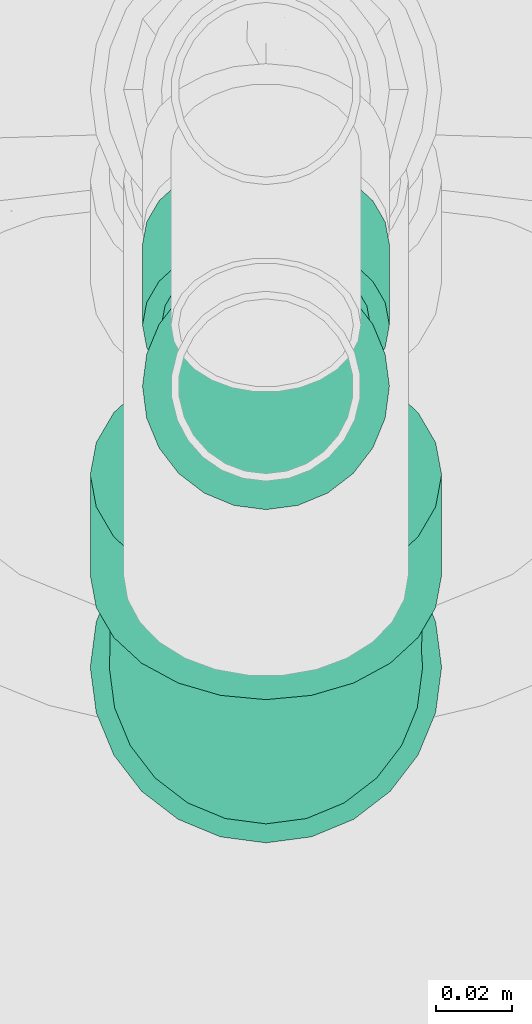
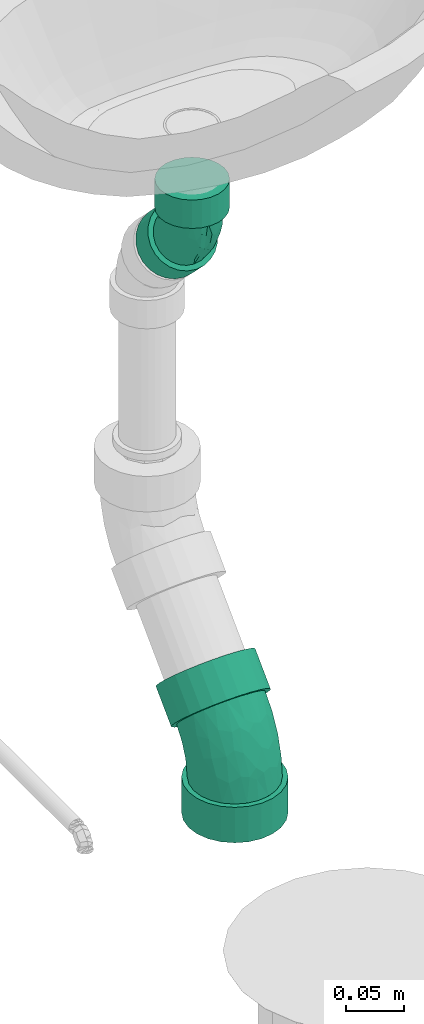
# One storey, part 53 of 108: 2 flow fittings.
"""IFC2X3 building model written with IfcOpenShell, lengths in millimetres."""

from ifc_helpers import new_model, entity, si_unit, converted_unit, derived_unit, direction, frame, origin_with_axes, place, context, subcontext, project, spatial, open_shell, surface_model, source, transform, mapped, type_object, element, save


model = new_model("IFC2X3")

# Units and contexts
model_context = context("Model", 3, precision=0.01, world=frame((0.0, 4.29681676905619e-09, 0.0)), true_north=direction((4.01073788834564e-13, 1.0)))
plan_context = context("Plan", 3, precision=0.01, world=frame((0.0, 4.29681676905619e-09, 0.0)), true_north=direction((4.01073788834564e-13, 1.0)))
body_context = subcontext(model_context, "Body", "Model", "MODEL_VIEW")
ifc_project = project(units=[converted_unit("PLANEANGLEUNIT", "DEGREE", entity("IfcPositiveLengthMeasure", 0.0174532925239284), si_unit("PLANEANGLEUNIT", "RADIAN"), dimensions=[0, 0, 0, 0, 0, 0, 0]), si_unit("AREAUNIT", "SQUARE_METRE"), si_unit("LENGTHUNIT", "METRE", prefix="MILLI"), si_unit("MASSUNIT", "GRAM", prefix="KILO"), si_unit("POWERUNIT", "WATT"), si_unit("PRESSUREUNIT", "PASCAL", prefix="KILO"), si_unit("FORCEUNIT", "NEWTON", prefix="KILO"), si_unit("ELECTRICVOLTAGEUNIT", "VOLT"), si_unit("ELECTRICCURRENTUNIT", "AMPERE"), si_unit("THERMODYNAMICTEMPERATUREUNIT", "DEGREE_CELSIUS"), si_unit("TIMEUNIT", "SECOND"), si_unit("VOLUMEUNIT", "CUBIC_METRE"), derived_unit("LINEARVELOCITYUNIT", [(si_unit("LENGTHUNIT", "METRE"), 1), (si_unit("TIMEUNIT", "SECOND"), -1)]), derived_unit("VOLUMETRICFLOWRATEUNIT", [(si_unit("VOLUMEUNIT", "CUBIC_METRE"), 1), (si_unit("TIMEUNIT", "SECOND"), -1)]), derived_unit("THERMALTRANSMITTANCEUNIT", [(si_unit("POWERUNIT", "WATT"), 1), (si_unit("THERMODYNAMICTEMPERATUREUNIT", "KELVIN"), -1), (si_unit("AREAUNIT", "SQUARE_METRE"), -1)]), derived_unit("SOUNDPRESSUREUNIT", [(si_unit("PRESSUREUNIT", "PASCAL"), 1)])], contexts=[model_context, plan_context])

# Site, building, storey
site_placement = place(None, frame((0.0, -4.29681676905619e-09, 0.0), z_axis=(0.0, 0.0, 1.0), x_axis=(1.0, 0.0, 0.0)))
site = spatial("IfcSite", under=ifc_project, at=site_placement, CompositionType="ELEMENT")
building_placement = place(site_placement, frame((0.0, 4.29681676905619e-09, 0.0), z_axis=(0.0, 0.0, 1.0), x_axis=(1.0, 0.0, 0.0)))
building = spatial("IfcBuilding", under=site, at=building_placement, Name="mc-building", CompositionType="ELEMENT")
storey_placement = place(building_placement, frame((0.0, 0.0, 210200.0), z_axis=(0.0, 0.0, 1.0), x_axis=(1.0, 0.0, 0.0)))
storey = spatial("IfcBuildingStorey", under=building, at=storey_placement, Name="Nivå F - 0,7 m", CompositionType="ELEMENT", Elevation=210200.0)

# Flow fittings
pipe_fitting_type = type_object("IfcPipeFittingType", Name="magi_sewer_bend_001", PredefinedType="BEND")
shared_shape_1 = source(origin_with_axes(), body_context, "Body", "SurfaceModel", [
    surface_model("IfcShellBasedSurfaceModel", [(-71.67262, -44.67407, -11.97038), (-71.67262, -11.97038, -44.67407), (-71.67262, -23.125, -40.05367), (-71.67262, -32.70369, -32.70369), (-71.67262, 0.0, -46.25), (-71.67262, -40.05367, -23.125), (-71.67262, -46.25, 0.0), (-71.67262, 11.97038, -44.67407), (-71.67262, 32.70369, -32.70369), (-71.67262, 23.125, -40.05367), (-71.67262, 44.67407, -11.97038), (-71.67262, 40.05367, -23.125), (-71.67262, -32.70369, 32.70369), (-71.67262, -44.67407, 11.97038), (-71.67262, -40.05367, 23.125), (-71.67262, 40.05367, 23.125), (-71.67262, -23.125, 40.05367), (-71.67262, -11.97038, 44.67407), (-71.67262, 0.0, 46.25), (-71.67262, 11.97038, 44.67407), (-71.67262, 44.67407, 11.97038), (-71.67262, 46.25, 0.0), (-71.67262, 23.125, 40.05367), (-71.67262, 32.70369, 32.70369), (-34.17262, 0.0, 46.25), (-34.17262, -11.97038, 44.67407), (-34.17262, -23.125, 40.05367), (-34.17262, -32.70369, 32.70369), (-34.17262, -40.05367, 23.125), (-34.17262, -44.67407, 11.97038), (-34.17262, 40.05367, 23.125), (-34.17262, -44.67407, -11.97038), (-34.17262, 23.125, 40.05367), (-34.17262, 32.70369, 32.70369), (-34.17262, 11.97038, 44.67407), (-34.17262, 44.67407, 11.97038), (-34.17262, 44.67407, -11.97038), (-34.17262, 46.25, 0.0), (-34.17262, -32.70369, -32.70369), (-34.17262, -40.05367, -23.125), (-34.17262, -23.125, -40.05367), (-34.17262, -11.97038, -44.67407), (-34.17262, 11.97038, -44.67407), (-34.17262, 32.70369, -32.70369), (-34.17262, 40.05367, -23.125), (-34.17262, 23.125, -40.05367), (-34.17262, 0.0, -46.25), (-34.17262, -46.25, 0.0), (22.35797, 79.00242, 23.125), (17.97651, 83.38388, 0.0), (19.09086, 82.26953, 11.97038), (34.32835, 67.03204, 40.05367), (27.55519, 73.8052, 32.70369), (42.21586, 59.14453, 44.67407), (27.55519, 73.8052, -32.70369), (73.8052, 27.55519, 32.70369), (42.21586, 59.14453, -44.67407), (19.09086, 82.26953, -11.97038), (22.35797, 79.00242, -23.125), (34.32835, 67.03204, -40.05367), (50.6802, 50.6802, 46.25), (59.14453, 42.21586, 44.67407), (67.03204, 34.32835, 40.05367), (67.03204, 34.32835, -40.05367), (79.00242, 22.35797, 23.125), (82.26953, 19.09086, 11.97038), (83.38388, 17.97651, 0.0), (82.26953, 19.09086, -11.97038), (59.14453, 42.21586, -44.67407), (50.6802, 50.6802, -46.25), (73.8052, 27.55519, -32.70369), (79.00242, 22.35797, -23.125), (56.86738, -8.54, 0.0), (55.75303, -7.42565, 11.97038), (52.48592, -4.15853, 23.125), (47.28869, 1.03869, 32.70369), (40.51554, 7.81185, 40.05367), (32.62803, 15.69935, 44.67407), (40.51554, 7.81185, -40.05367), (15.69935, 32.62803, 44.67407), (55.75303, -7.42565, -11.97038), (47.28869, 1.03869, -32.70369), (52.48592, -4.15853, -23.125), (32.62803, 15.69935, -44.67407), (15.69935, 32.62803, -44.67407), (24.16369, 24.16369, -46.25), (-4.15853, 52.48592, 23.125), (7.81185, 40.51554, 40.05367), (1.03869, 47.28869, 32.70369), (-4.15853, 52.48592, -23.125), (-7.42565, 55.75303, 11.97038), (1.03869, 47.28869, -32.70369), (7.81185, 40.51554, -40.05367), (-7.42565, 55.75303, -11.97038), (-8.54, 56.86738, 0.0), (24.16369, 24.16369, 46.25), (-34.17262, 10.67629, -39.84444), (-34.17262, 0.0, -41.25), (-34.17262, 35.72355, -20.625), (-34.17262, 20.625, -35.72355), (-34.17262, -10.67629, -39.84444), (-34.17262, 29.16816, -29.16816), (-34.17262, 39.84444, -10.67629), (-34.17262, -29.16816, -29.16816), (-34.17262, -35.72355, -20.625), (-34.17262, -20.625, -35.72355), (-34.17262, -39.84444, -10.67629), (-34.17262, -41.25, 0.0), (-34.17262, -39.84444, 10.67629), (-34.17262, 41.25, 0.0), (-34.17262, 35.72355, 20.625), (-34.17262, 39.84444, 10.67629), (-34.17262, 10.67629, 39.84444), (-34.17262, 20.625, 35.72355), (-34.17262, 29.16816, 29.16816), (-34.17262, -35.72355, 20.625), (-34.17262, -29.16816, 29.16816), (-34.17262, -10.67629, 39.84444), (-34.17262, -20.625, 35.72355), (-34.17262, 0.0, 41.25), (16.61442, 31.71296, -39.84444), (38.74777, 9.57961, -35.72355), (24.16369, 24.16369, -41.25), (9.57961, 38.74777, -35.72355), (49.42405, -1.09667, 20.625), (52.33797, -4.01058, -10.67629), (-1.09667, 49.42405, -20.625), (3.53869, 44.78869, -29.16816), (44.78869, 3.53869, -29.16816), (31.71296, 16.61442, -39.84444), (49.42405, -1.09667, -20.625), (52.33797, -4.01058, 10.67629), (53.33185, -5.00446, 0.0), (-5.00446, 53.33185, 0.0), (-4.01058, 52.33797, -10.67629), (-4.01058, 52.33797, 10.67629), (-1.09667, 49.42405, 20.625), (3.53869, 44.78869, 29.16816), (9.57961, 38.74777, 35.72355), (16.61442, 31.71296, 39.84444), (24.16369, 24.16369, 41.25), (31.71296, 16.61442, 39.84444), (44.78869, 3.53869, 29.16816), (38.74777, 9.57961, 35.72355), (10.50612, -25.36402, 22.98738), (-9.12592, -23.31355, 31.83011), (-13.32012, -31.54844, 24.15346), (-13.78242, -38.56558, 0.0), (-2.14376, -37.03332, 0.0), (-8.80455, -38.00287, 7.04384), (31.72686, -12.88936, 24.15346), (-16.3448, -15.12603, 37.70038), (4.23545, -10.22528, 37.18064), (1.2244, 24.79863, 38.50101), (7.45704, 19.5259, 40.65003), (-12.31128, -3.97165, 40.70351), (-3.92344, 9.47201, 41.10505), (-20.66814, 5.71607, 40.99967), (-11.71714, 28.28769, 33.67672), (-18.19114, 34.59421, 26.03152), (22.25324, 0.8618, 37.70038), (-15.84955, 17.16525, 38.56294), (15.91914, -26.99759, 16.25694), (-7.39626, -35.6875, 14.32507), (12.80708, -30.91902, 8.96571), (-16.99315, 41.02508, 16.94728), (33.09785, -20.64633, 7.04384), (37.01562, -17.52434, 0.0), (-16.52245, 44.20054, 8.66711), (30.46482, -20.00493, 14.32507), (11.51377, 5.89701, 40.70351), (22.93817, -10.03217, 31.83011), (-18.38693, 44.38997, 0.0), (6.92373, -16.71536, 32.89459), (12.77931, -30.85198, 0.0), (27.70238, -24.67064, 0.0), (-12.31128, -3.97165, -40.70351), (-8.80455, -38.00287, -7.04384), (12.80708, -30.91902, -8.96571), (11.51377, 5.89701, -40.70351), (-18.40106, 16.66949, -38.50101), (-19.07982, 8.53397, -40.65003), (-11.59873, 37.32487, -26.03152), (22.93817, -10.03217, -31.83011), (-16.99315, 41.02508, -16.94728), (30.46482, -20.00492, -14.32507), (-19.57136, 42.93764, -8.66711), (-0.93034, 23.34499, -38.56294), (-7.39626, -35.6875, -14.32507), (-11.71715, 28.28769, -33.67672), (-13.32012, -31.54844, -24.15346), (-9.12592, -23.31355, -31.83011), (6.92373, -16.71536, -32.89459), (10.50612, -25.36402, -22.98737), (-16.3448, -15.12603, -37.70038), (22.25324, 0.8618, -37.70038), (4.23545, -10.22528, -37.18064), (33.09785, -20.64633, -7.04384), (10.57272, 18.65645, -40.99967), (7.83365, -30.34671, -16.25694), (31.72686, -12.88936, -24.15346), (-3.92344, 9.47201, -41.10505)], [open_shell([[[0, 1, 2]], [[0, 2, 3]], [[1, 0, 4]], [[0, 3, 5]], [[4, 0, 6]], [[7, 8, 9]], [[8, 7, 4]], [[8, 10, 11]], [[10, 8, 4]], [[4, 6, 10]], [[6, 12, 10]], [[13, 14, 12]], [[10, 12, 15]], [[16, 17, 18]], [[16, 18, 12]], [[19, 12, 18]], [[10, 20, 21]], [[15, 20, 10]], [[15, 22, 23]], [[22, 15, 19]], [[12, 19, 15]], [[6, 13, 12]], [[24, 25, 26]], [[24, 26, 27]], [[27, 28, 29]], [[24, 27, 30]], [[27, 31, 30]], [[32, 30, 33]], [[30, 32, 34]], [[35, 36, 37]], [[30, 34, 24]], [[35, 30, 36]], [[27, 29, 31]], [[36, 30, 31]], [[38, 31, 39]], [[40, 41, 31]], [[40, 31, 38]], [[42, 31, 41]], [[36, 43, 44]], [[36, 31, 43]], [[43, 42, 45]], [[31, 42, 43]], [[41, 46, 42]], [[31, 29, 47]], [[36, 10, 37]], [[44, 11, 36]], [[9, 43, 45]], [[44, 43, 8]], [[7, 45, 42]], [[36, 11, 10]], [[10, 21, 37]], [[7, 9, 45]], [[8, 43, 9]], [[8, 11, 44]], [[4, 7, 42]], [[42, 46, 4]], [[46, 41, 1]], [[5, 39, 31]], [[39, 3, 38]], [[0, 31, 47]], [[1, 40, 2]], [[40, 1, 41]], [[40, 38, 2]], [[38, 3, 2]], [[39, 5, 3]], [[0, 5, 31]], [[47, 6, 0]], [[46, 1, 4]], [[29, 13, 47]], [[28, 14, 29]], [[16, 27, 26]], [[28, 27, 12]], [[17, 26, 25]], [[29, 14, 13]], [[13, 6, 47]], [[17, 16, 26]], [[12, 27, 16]], [[12, 14, 28]], [[18, 17, 25]], [[25, 24, 18]], [[33, 22, 32]], [[35, 15, 30]], [[33, 30, 23]], [[20, 35, 37]], [[32, 19, 34]], [[32, 22, 19]], [[19, 18, 34]], [[33, 23, 22]], [[30, 15, 23]], [[20, 15, 35]], [[37, 21, 20]], [[34, 18, 24]], [[48, 49, 50]], [[51, 48, 52]], [[48, 53, 54]], [[53, 48, 51]], [[53, 55, 56]], [[57, 54, 58]], [[57, 49, 48]], [[54, 56, 59]], [[57, 48, 54]], [[53, 56, 54]], [[53, 60, 55]], [[61, 62, 55]], [[56, 55, 63]], [[64, 65, 66]], [[55, 64, 63]], [[66, 67, 64]], [[56, 68, 69]], [[63, 68, 56]], [[70, 67, 71]], [[67, 70, 63]], [[64, 67, 63]], [[60, 61, 55]], [[72, 73, 74]], [[72, 74, 75]], [[75, 76, 77]], [[72, 75, 78]], [[75, 79, 78]], [[80, 81, 82]], [[81, 80, 78]], [[83, 84, 85]], [[78, 80, 72]], [[83, 78, 84]], [[75, 77, 79]], [[84, 78, 79]], [[86, 79, 87]], [[84, 79, 86]], [[86, 87, 88]], [[89, 86, 90]], [[84, 91, 92]], [[91, 84, 89]], [[90, 93, 89]], [[89, 84, 86]], [[94, 93, 90]], [[79, 77, 95]], [[84, 56, 85]], [[92, 59, 84]], [[58, 91, 89]], [[92, 91, 54]], [[57, 89, 93]], [[84, 59, 56]], [[56, 69, 85]], [[57, 58, 89]], [[54, 91, 58]], [[54, 59, 92]], [[49, 57, 93]], [[93, 94, 49]], [[94, 90, 50]], [[51, 87, 79]], [[87, 52, 88]], [[53, 79, 95]], [[50, 86, 48]], [[86, 50, 90]], [[86, 88, 48]], [[88, 52, 48]], [[87, 51, 52]], [[53, 51, 79]], [[95, 60, 53]], [[94, 50, 49]], [[77, 61, 95]], [[76, 62, 77]], [[64, 75, 74]], [[76, 75, 55]], [[65, 74, 73]], [[77, 62, 61]], [[61, 60, 95]], [[65, 64, 74]], [[55, 75, 64]], [[55, 62, 76]], [[66, 65, 73]], [[73, 72, 66]], [[67, 72, 80]], [[71, 80, 82]], [[63, 78, 83]], [[68, 83, 85]], [[82, 70, 71]], [[71, 67, 80]], [[81, 63, 70]], [[81, 78, 63]], [[63, 83, 68]], [[85, 69, 68]], [[81, 70, 82]], [[72, 67, 66]], [[96, 97, 98]], [[99, 96, 98]], [[100, 98, 97]], [[101, 99, 98]], [[102, 98, 100]], [[103, 104, 105]], [[100, 105, 104]], [[104, 106, 100]], [[106, 102, 100]], [[107, 108, 106]], [[109, 102, 106]], [[110, 111, 109]], [[108, 110, 106]], [[112, 113, 114]], [[108, 114, 110]], [[114, 108, 112]], [[115, 116, 108]], [[117, 108, 116]], [[118, 117, 116]], [[117, 112, 108]], [[117, 119, 112]], [[109, 106, 110]], [[120, 121, 122]], [[123, 124, 120]], [[125, 120, 124]], [[126, 123, 127]], [[124, 123, 126]], [[121, 125, 128]], [[121, 129, 122]], [[128, 125, 130]], [[120, 125, 121]], [[125, 131, 132]], [[133, 126, 134]], [[133, 135, 136]], [[126, 136, 124]], [[137, 138, 139]], [[137, 139, 136]], [[140, 136, 139]], [[124, 141, 142]], [[131, 125, 124]], [[142, 141, 143]], [[141, 124, 140]], [[136, 140, 124]], [[126, 133, 136]], [[144, 145, 146]], [[147, 148, 149]], [[118, 116, 145]], [[124, 142, 150]], [[151, 145, 152]], [[146, 145, 116]], [[139, 153, 154]], [[117, 118, 151]], [[155, 156, 157]], [[119, 117, 155]], [[114, 158, 159]], [[143, 141, 160]], [[157, 112, 119]], [[113, 161, 158]], [[108, 147, 149]], [[138, 137, 158]], [[162, 163, 164]], [[158, 114, 113]], [[116, 115, 146]], [[110, 159, 165]], [[111, 110, 165]], [[131, 166, 167]], [[168, 109, 111]], [[169, 162, 164]], [[163, 149, 164]], [[113, 112, 161]], [[140, 154, 170]], [[142, 143, 171]], [[136, 135, 165]], [[170, 141, 140]], [[144, 146, 163]], [[142, 171, 150]], [[156, 154, 153]], [[171, 143, 160]], [[115, 163, 146]], [[166, 131, 169]], [[144, 150, 171]], [[157, 161, 112]], [[144, 162, 150]], [[111, 165, 168]], [[115, 108, 163]], [[172, 168, 133]], [[145, 173, 152]], [[135, 168, 165]], [[152, 170, 155]], [[136, 165, 159]], [[152, 160, 170]], [[136, 159, 137]], [[156, 155, 170]], [[139, 138, 153]], [[153, 158, 161]], [[151, 155, 117]], [[110, 114, 159]], [[169, 131, 124]], [[169, 124, 150]], [[173, 144, 171]], [[137, 159, 158]], [[158, 153, 138]], [[156, 153, 161]], [[145, 151, 118]], [[155, 151, 152]], [[170, 160, 141]], [[171, 160, 152]], [[108, 107, 147]], [[164, 148, 174]], [[108, 149, 163]], [[148, 164, 149]], [[166, 164, 175]], [[167, 166, 175]], [[167, 132, 131]], [[164, 166, 169]], [[170, 154, 156]], [[140, 139, 154]], [[155, 157, 119]], [[161, 157, 156]], [[144, 173, 145]], [[171, 152, 173]], [[133, 168, 135]], [[168, 172, 109]], [[150, 162, 169]], [[163, 162, 144]], [[175, 164, 174]], [[100, 97, 176]], [[148, 177, 178]], [[122, 129, 179]], [[180, 181, 96]], [[98, 182, 101]], [[121, 128, 183]], [[184, 182, 98]], [[130, 125, 185]], [[102, 186, 184]], [[123, 120, 187]], [[106, 177, 147]], [[99, 180, 96]], [[177, 106, 188]], [[127, 189, 182]], [[188, 104, 190]], [[190, 103, 191]], [[103, 105, 191]], [[192, 193, 191]], [[106, 104, 188]], [[103, 190, 104]], [[194, 105, 100]], [[195, 179, 129]], [[134, 126, 184]], [[196, 194, 176]], [[109, 172, 186]], [[193, 190, 191]], [[133, 134, 186]], [[196, 176, 179]], [[127, 123, 189]], [[184, 98, 102]], [[126, 182, 184]], [[194, 191, 105]], [[187, 189, 123]], [[181, 176, 97]], [[189, 187, 180]], [[101, 189, 99]], [[125, 167, 197]], [[198, 120, 122]], [[195, 129, 121]], [[199, 185, 178]], [[128, 200, 183]], [[196, 195, 183]], [[128, 130, 200]], [[201, 198, 179]], [[200, 193, 183]], [[201, 179, 176]], [[197, 167, 175]], [[198, 187, 120]], [[201, 181, 180]], [[177, 188, 178]], [[193, 199, 190]], [[183, 192, 196]], [[130, 185, 200]], [[134, 184, 186]], [[193, 200, 185]], [[126, 127, 182]], [[101, 182, 189]], [[189, 180, 99]], [[201, 180, 187]], [[176, 194, 100]], [[191, 194, 196]], [[183, 195, 121]], [[179, 195, 196]], [[147, 177, 148]], [[147, 107, 106]], [[199, 178, 188]], [[197, 178, 185]], [[178, 175, 174]], [[125, 132, 167]], [[178, 197, 175]], [[125, 197, 185]], [[176, 181, 201]], [[97, 96, 181]], [[179, 198, 122]], [[187, 198, 201]], [[193, 192, 183]], [[191, 196, 192]], [[109, 186, 102]], [[186, 172, 133]], [[190, 199, 188]], [[185, 199, 193]], [[148, 178, 174]]])]),
])
flow_fitting_1_placement = place(storey_placement, frame((339409.94567, 460552.16559, 88.7977499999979), z_axis=(1.0, 0.0, 0.0), x_axis=(0.0, -0.707106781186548, -0.707106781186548)))
element("IfcFlowFitting", 1, at=flow_fitting_1_placement, inside=storey, type_object=pipe_fitting_type, Name="magi_sewer_bend_001", context=body_context, shape_type="MappedRepresentation", body=[
    mapped(shared_shape_1, transform((0.0, 0.0, 0.0), scale=1.0)),
])
shared_shape_2 = source(origin_with_axes(), body_context, "Body", "SurfaceModel", [
    surface_model("IfcShellBasedSurfaceModel", [(-52.78174, -16.25, -28.14582), (-52.78174, 0.0, -32.5), (-52.78174, -8.41162, -31.39259), (-52.78174, -31.39259, -8.41162), (-52.78174, -22.98097, -22.98097), (-52.78174, -28.14582, -16.25), (-52.78174, 16.25, -28.14582), (-52.78174, 8.41162, -31.39259), (-52.78174, 22.98097, -22.98097), (-52.78174, 31.39259, -8.41162), (-52.78174, 28.14582, -16.25), (-52.78174, 31.39259, 8.41162), (-52.78174, -32.5, 0.0), (-52.78174, -31.39259, 8.41162), (-52.78174, -16.25, 28.14582), (-52.78174, -28.14582, 16.25), (-52.78174, -22.98097, 22.98097), (-52.78174, -8.41162, 31.39259), (-52.78174, 0.0, 32.5), (-52.78174, 22.98097, 22.98097), (-52.78174, 28.14582, 16.25), (-52.78174, 32.5, 0.0), (-22.78175, 0.0, 32.5), (-22.78175, -8.41162, 31.39259), (-22.78175, -16.25, 28.14582), (-22.78175, -28.14582, 16.25), (-22.78175, -31.39259, 8.41162), (-22.78175, -22.98097, 22.98097), (-22.78175, 31.39259, 8.41162), (-22.78175, 22.98097, 22.98097), (-22.78175, 16.25, 28.14582), (-22.78175, 8.41162, 31.39259), (-22.78175, 28.14582, 16.25), (-22.78175, 31.39259, -8.41162), (-22.78175, 32.5, 0.0), (-22.78175, -16.25, -28.14582), (-22.78175, -31.39259, -8.41162), (-22.78175, -22.98097, -22.98097), (-22.78175, -28.14582, -16.25), (-22.78175, -8.41162, -31.39259), (-22.78175, 0.0, -32.5), (-22.78175, 22.98097, -22.98097), (-22.78175, 28.14582, -16.25), (-22.78175, 16.25, -28.14582), (-22.78175, 8.41162, -31.39259), (-22.78175, -32.5, 0.0), (-52.78174, 16.25, 28.14582), (-52.78174, 8.41162, 31.39259), (31.37442, 43.27024, 31.39259), (21.07233, 53.57233, 22.98097), (25.83184, 48.81281, 28.14582), (14.34136, 60.3033, 0.0), (17.42023, 57.22443, -16.25), (15.12442, 59.52025, -8.41162), (21.07233, 53.57233, -22.98097), (31.37442, 43.27024, -31.39259), (25.83184, 48.81281, -28.14582), (57.22444, 17.42023, 16.25), (59.52025, 15.12442, 8.41162), (60.3033, 14.34136, 0.0), (43.27024, 31.37442, -31.39259), (53.57233, 21.07233, -22.98097), (48.81281, 25.83184, -28.14582), (59.52025, 15.12442, -8.41162), (57.22444, 17.42023, -16.25), (32.35913, -0.14087, -22.98097), (22.05704, 10.16121, -31.39259), (27.59961, 4.61864, -28.14582), (10.16121, 22.05704, -31.39259), (16.10913, 16.10913, -32.5), (-0.14087, 32.35913, 22.98097), (10.16121, 22.05704, 31.39259), (4.61864, 27.59961, 28.14582), (-3.79298, 36.01123, 16.25), (-0.14087, 32.35913, -22.98097), (4.61864, 27.59961, -28.14582), (-3.79298, 36.01123, -16.25), (-6.08879, 38.30704, -8.41162), (37.32233, 37.32233, -32.5), (-6.87184, 39.0901, 0.0), (15.12442, 59.52025, 8.41162), (-6.08879, 38.30704, 8.41162), (17.42023, 57.22443, 16.25), (16.10913, 16.10913, 32.5), (37.32233, 37.32233, 32.5), (22.05704, 10.16121, 31.39259), (43.27024, 31.37442, 31.39259), (27.59961, 4.61864, 28.14582), (48.81281, 25.83184, 28.14582), (32.35913, -0.14087, 22.98097), (36.01123, -3.79298, 16.25), (53.57233, 21.07233, 22.98097), (38.30704, -6.08879, 8.41162), (39.0901, -6.87184, 0.0), (36.01123, -3.79298, -16.25), (38.30704, -6.08879, -8.41162), (-22.78175, -7.11752, -26.56296), (-22.78175, -13.75, -23.8157), (-22.78175, 0.0, -27.5), (-22.78175, -19.44544, -19.44544), (-22.78175, 7.11752, 26.56296), (-22.78175, 13.75, 23.8157), (-22.78175, 0.0, 27.5), (-22.78175, -19.44544, 19.44544), (-22.78175, -13.75, 23.8157), (-22.78175, -23.8157, 13.75), (-22.78175, -27.5, 0.0), (-22.78175, -26.56296, 7.11752), (-22.78175, -7.11752, 26.56296), (16.10913, 16.10913, -27.5), (11.07628, 21.14198, -26.56296), (6.38641, 25.83184, -23.8157), (34.89198, -2.67372, 7.11752), (35.55456, -3.33631, 0.0), (32.94937, -0.73112, 13.75), (25.83184, 6.38641, 23.8157), (16.10913, 16.10913, 27.5), (21.14198, 11.07628, 26.56296), (-10.89653, -10.08402, 25.13359), (-6.08395, -15.54237, 21.22007), (2.82363, -6.81685, 24.78709), (-8.88008, -21.03229, 16.10231), (29.85913, 2.35913, 19.44544), (21.15124, -8.59291, 16.10231), (-8.20752, -2.64777, 27.13567), (-10.56637, 11.4435, 25.70862), (-2.61562, 6.31467, 27.40336), (-13.77876, 3.81071, 27.33312), (11.07628, 21.14198, 26.56296), (0.81627, 16.53242, 25.66734), (4.97136, 13.01727, 27.10002), (7.00408, -16.90935, 15.32492), (14.83549, 0.57453, 25.13359), (-11.32876, 27.35006, 11.29819), (-22.78175, 23.8157, 13.75), (-12.12742, 23.0628, 17.35435), (-7.81143, 18.85846, 22.45115), (-22.78175, 19.44544, 19.44544), (2.36739, -23.11848, 4.86135), (12.57175, -19.06151, 4.86135), (8.1319, -19.63215, 9.56958), (-6.99605, -24.36003, 0.0), (-7.7494, -25.65083, 5.00996), (26.50273, -10.51974, 5.28921), (20.30988, -13.33662, 9.55004), (-11.01497, 29.46703, 5.77808), (-22.78175, 26.56296, 7.11752), (-4.93084, -23.79167, 9.55004), (-22.78175, 27.5, 0.0), (6.38641, 25.83184, 23.8157), (2.35913, 29.85913, 19.44544), (7.67585, 3.93134, 27.13567), (15.29211, -6.68811, 21.22007), (-0.73111, 32.94937, 13.75), (-2.67372, 34.89198, 7.11752), (8.78964, -21.22006, 0.0), (22.1721, -12.27819, 0.0), (-12.25795, 29.59331, 0.0), (-3.33631, 35.55456, 0.0), (4.61582, -11.14357, 21.92972), (-8.20752, -2.64777, -27.13567), (14.67324, -18.02124, -4.86135), (4.58896, -22.36809, -4.86135), (8.1319, -19.63215, -9.56958), (21.14198, 11.07628, -26.56296), (7.67585, 3.93134, -27.13567), (-12.26737, 11.113, -25.66734), (-12.71988, 5.68931, -27.10002), (-22.78175, 7.11752, -26.56296), (-22.78175, 23.8157, -13.75), (-7.73248, 24.88325, -17.35435), (-22.78175, 19.44544, -19.44544), (25.83184, 6.38641, -23.8157), (29.85913, 2.35913, -19.44544), (15.29211, -6.68811, -21.22007), (-11.32876, 27.35006, -11.29819), (32.94937, -0.73112, -13.75), (34.89198, -2.67372, -7.11752), (20.30988, -13.33662, -9.55004), (-22.78175, 26.56296, -7.11752), (-13.04757, 28.62509, -5.77807), (-0.62023, 15.56333, -25.70862), (-11.30168, -26.17884, -5.28921), (-22.78175, -26.56296, -7.11752), (-4.93084, -23.79167, -9.55004), (-22.78175, 13.75, -23.8157), (7.00408, -16.90935, -15.32492), (21.15124, -8.59291, -16.10231), (-8.88008, -21.03229, -16.10231), (-6.08395, -15.54237, -21.22007), (4.61582, -11.14357, -21.92972), (-22.78175, -23.8157, -13.75), (-10.89653, -10.08402, -25.13359), (2.82363, -6.81685, -24.78709), (14.83549, 0.57453, -25.13359), (-2.67372, 34.89198, -7.11752), (-2.61562, 6.31467, -27.40336), (2.35913, 29.85913, -19.44544), (-7.81143, 18.85846, -22.45115), (-0.73111, 32.94937, -13.75), (23.61753, -12.65822, -5.00996), (7.04848, 12.43764, -27.33312)], [open_shell([[[0, 1, 2]], [[3, 0, 4]], [[3, 4, 5]], [[1, 6, 7]], [[8, 9, 10]], [[8, 11, 9]], [[3, 12, 13]], [[14, 15, 16]], [[14, 17, 18]], [[11, 19, 20]], [[21, 9, 11]], [[11, 3, 13]], [[22, 23, 24]], [[22, 24, 25]], [[25, 26, 22]], [[25, 24, 27]], [[22, 26, 28]], [[22, 29, 30]], [[30, 31, 22]], [[29, 28, 32]], [[28, 29, 22]], [[28, 33, 34]], [[28, 26, 35]], [[26, 36, 35]], [[37, 36, 38]], [[39, 28, 35]], [[35, 36, 37]], [[28, 39, 40]], [[33, 41, 42]], [[33, 28, 41]], [[43, 40, 44]], [[40, 43, 41]], [[40, 41, 28]], [[36, 26, 45]], [[33, 9, 34]], [[42, 10, 33]], [[6, 41, 43]], [[42, 41, 8]], [[7, 43, 44]], [[33, 10, 9]], [[9, 21, 34]], [[7, 6, 43]], [[8, 41, 6]], [[8, 10, 42]], [[1, 7, 44]], [[44, 40, 1]], [[2, 40, 39]], [[0, 39, 35]], [[5, 38, 36]], [[3, 36, 45]], [[39, 0, 2]], [[0, 35, 37]], [[0, 37, 4]], [[37, 38, 4]], [[4, 38, 5]], [[5, 36, 3]], [[45, 12, 3]], [[40, 2, 1]], [[26, 13, 45]], [[25, 15, 26]], [[14, 27, 24]], [[25, 27, 16]], [[17, 24, 23]], [[26, 15, 13]], [[13, 12, 45]], [[17, 14, 24]], [[16, 27, 14]], [[16, 15, 25]], [[18, 17, 23]], [[23, 22, 18]], [[46, 30, 29]], [[20, 32, 28]], [[29, 32, 19]], [[11, 28, 34]], [[31, 46, 47]], [[31, 30, 46]], [[47, 18, 31]], [[29, 19, 46]], [[32, 20, 19]], [[11, 20, 28]], [[34, 21, 11]], [[31, 18, 22]], [[48, 49, 50]], [[51, 52, 53]], [[54, 55, 56]], [[57, 58, 59]], [[60, 61, 62]], [[61, 63, 64]], [[63, 61, 60]], [[65, 66, 67]], [[66, 68, 69]], [[70, 71, 72]], [[73, 71, 70]], [[68, 74, 75]], [[68, 55, 69]], [[75, 56, 68]], [[52, 74, 76]], [[75, 74, 54]], [[53, 76, 77]], [[68, 56, 55]], [[55, 78, 69]], [[53, 52, 76]], [[54, 74, 52]], [[54, 56, 75]], [[51, 53, 77]], [[77, 79, 51]], [[80, 79, 81]], [[82, 81, 73]], [[50, 72, 71]], [[48, 71, 83]], [[81, 82, 80]], [[82, 73, 70]], [[82, 70, 49]], [[70, 72, 49]], [[49, 72, 50]], [[50, 71, 48]], [[83, 84, 48]], [[79, 80, 51]], [[85, 86, 83]], [[87, 88, 85]], [[57, 89, 90]], [[87, 89, 91]], [[58, 90, 92]], [[85, 88, 86]], [[86, 84, 83]], [[58, 57, 90]], [[91, 89, 57]], [[91, 88, 87]], [[59, 58, 92]], [[92, 93, 59]], [[64, 94, 65]], [[62, 67, 66]], [[65, 67, 61]], [[60, 66, 69]], [[95, 64, 63]], [[95, 94, 64]], [[63, 59, 95]], [[65, 61, 64]], [[67, 62, 61]], [[60, 62, 66]], [[69, 78, 60]], [[95, 59, 93]], [[96, 97, 98]], [[97, 99, 98]], [[100, 101, 102]], [[103, 104, 105]], [[105, 106, 107]], [[108, 102, 104]], [[109, 110, 111]], [[112, 113, 114]], [[115, 116, 117]], [[118, 119, 120]], [[103, 121, 119]], [[104, 103, 119]], [[114, 122, 123]], [[102, 108, 124]], [[108, 104, 118]], [[101, 100, 125]], [[126, 127, 124]], [[102, 127, 100]], [[128, 129, 130]], [[119, 121, 131]], [[115, 117, 132]], [[133, 134, 135]], [[136, 137, 101]], [[138, 139, 140]], [[141, 138, 142]], [[143, 112, 144]], [[133, 145, 146]], [[105, 107, 147]], [[148, 146, 145]], [[146, 134, 133]], [[103, 105, 121]], [[125, 136, 101]], [[147, 140, 131]], [[106, 141, 142]], [[149, 150, 136]], [[116, 130, 151]], [[122, 115, 152]], [[153, 154, 133]], [[151, 117, 116]], [[138, 141, 155]], [[122, 152, 123]], [[126, 130, 129]], [[152, 115, 132]], [[105, 147, 121]], [[156, 143, 139]], [[112, 143, 113]], [[127, 125, 100]], [[145, 133, 154]], [[157, 145, 158]], [[123, 131, 144]], [[119, 159, 120]], [[120, 151, 124]], [[128, 149, 129]], [[120, 132, 151]], [[133, 135, 153]], [[126, 124, 151]], [[150, 153, 135]], [[136, 125, 129]], [[118, 124, 108]], [[134, 137, 135]], [[112, 114, 144]], [[131, 121, 147]], [[159, 131, 152]], [[131, 123, 152]], [[144, 114, 123]], [[137, 136, 135]], [[150, 135, 136]], [[136, 129, 149]], [[126, 129, 125]], [[119, 118, 104]], [[124, 118, 120]], [[151, 132, 117]], [[152, 132, 120]], [[151, 130, 126]], [[116, 128, 130]], [[124, 127, 102]], [[125, 127, 126]], [[138, 140, 147]], [[144, 131, 140]], [[138, 147, 142]], [[139, 138, 155]], [[156, 139, 155]], [[144, 140, 139]], [[147, 107, 142]], [[106, 142, 107]], [[131, 159, 119]], [[152, 120, 159]], [[158, 145, 154]], [[145, 157, 148]], [[139, 143, 144]], [[113, 143, 156]], [[96, 98, 160]], [[161, 162, 163]], [[109, 164, 165]], [[166, 167, 168]], [[169, 170, 171]], [[172, 173, 174]], [[175, 170, 169]], [[176, 177, 178]], [[179, 180, 175]], [[111, 110, 181]], [[182, 183, 184]], [[185, 166, 168]], [[141, 182, 162]], [[186, 187, 178]], [[183, 182, 106]], [[188, 99, 189]], [[99, 97, 189]], [[190, 186, 189]], [[183, 191, 184]], [[99, 188, 191]], [[192, 97, 96]], [[188, 186, 184]], [[193, 160, 165]], [[194, 165, 164]], [[148, 157, 180]], [[161, 156, 155]], [[158, 195, 180]], [[196, 165, 160]], [[197, 111, 198]], [[175, 169, 179]], [[199, 170, 175]], [[192, 189, 97]], [[181, 198, 111]], [[167, 160, 98]], [[198, 181, 166]], [[171, 198, 185]], [[156, 161, 200]], [[109, 201, 110]], [[194, 164, 172]], [[178, 163, 186]], [[173, 176, 187]], [[174, 193, 194]], [[174, 187, 186]], [[193, 192, 160]], [[113, 156, 200]], [[199, 197, 170]], [[201, 181, 110]], [[187, 174, 173]], [[174, 190, 193]], [[201, 165, 196]], [[196, 167, 166]], [[195, 175, 180]], [[176, 178, 187]], [[195, 199, 175]], [[186, 188, 189]], [[184, 191, 188]], [[197, 198, 170]], [[171, 170, 198]], [[198, 166, 185]], [[196, 166, 181]], [[160, 192, 96]], [[189, 192, 193]], [[174, 194, 172]], [[165, 194, 193]], [[160, 167, 196]], [[98, 168, 167]], [[165, 201, 109]], [[181, 201, 196]], [[161, 163, 178]], [[184, 186, 163]], [[161, 178, 200]], [[162, 161, 155]], [[141, 162, 155]], [[184, 163, 162]], [[178, 177, 200]], [[113, 200, 177]], [[186, 190, 174]], [[189, 193, 190]], [[148, 180, 179]], [[180, 157, 158]], [[162, 182, 184]], [[106, 182, 141]], [[0, 3, 8]], [[8, 3, 11]], [[6, 1, 8]], [[8, 1, 0]], [[14, 13, 15]], [[13, 14, 11]], [[11, 14, 18]], [[18, 19, 11]], [[18, 46, 19]], [[47, 46, 18]], [[82, 51, 80]], [[49, 52, 82]], [[54, 49, 48]], [[54, 48, 60]], [[51, 82, 52]], [[54, 52, 49]], [[60, 55, 54]], [[48, 84, 86]], [[59, 86, 88]], [[57, 88, 91]], [[57, 59, 88]], [[86, 59, 63]], [[78, 55, 60]], [[63, 60, 48]], [[48, 86, 63]], [[92, 95, 93]], [[89, 92, 90]], [[89, 87, 85]], [[92, 89, 95]], [[85, 66, 89]], [[94, 66, 65]], [[66, 94, 95]], [[95, 89, 66]], [[66, 85, 83]], [[74, 66, 71]], [[74, 71, 73]], [[76, 73, 81]], [[66, 74, 68]], [[81, 77, 76]], [[74, 73, 76]], [[79, 77, 81]], [[66, 83, 71]], [[185, 168, 98]], [[185, 98, 106]], [[185, 179, 169]], [[171, 185, 169]], [[185, 106, 134]], [[191, 183, 99]], [[106, 99, 183]], [[99, 106, 98]], [[134, 179, 185]], [[134, 146, 179]], [[106, 104, 134]], [[101, 137, 102]], [[102, 137, 134]], [[104, 106, 105]], [[134, 104, 102]], [[148, 179, 146]], [[173, 109, 111]], [[113, 111, 199]], [[199, 111, 197]], [[114, 113, 199]], [[164, 173, 172]], [[164, 109, 173]], [[173, 177, 176]], [[177, 173, 113]], [[111, 113, 173]], [[199, 195, 114]], [[158, 154, 153]], [[195, 153, 114]], [[150, 149, 128]], [[153, 150, 116]], [[128, 116, 150]], [[114, 116, 122]], [[116, 115, 122]], [[153, 116, 114]], [[195, 158, 153]]])]),
])
flow_fitting_2_placement = place(storey_placement, frame((339409.94567, 460626.14311, 590.0), z_axis=(1.0, 0.0, 0.0), x_axis=(0.0, 0.0, -1.0)))
element("IfcFlowFitting", 2, at=flow_fitting_2_placement, inside=storey, type_object=pipe_fitting_type, Name="magi_sewer_bend_001", context=body_context, shape_type="MappedRepresentation", body=[
    mapped(shared_shape_2, transform((0.0, 0.0, 0.0), scale=1.0)),
])

save(model, "model.ifc")
